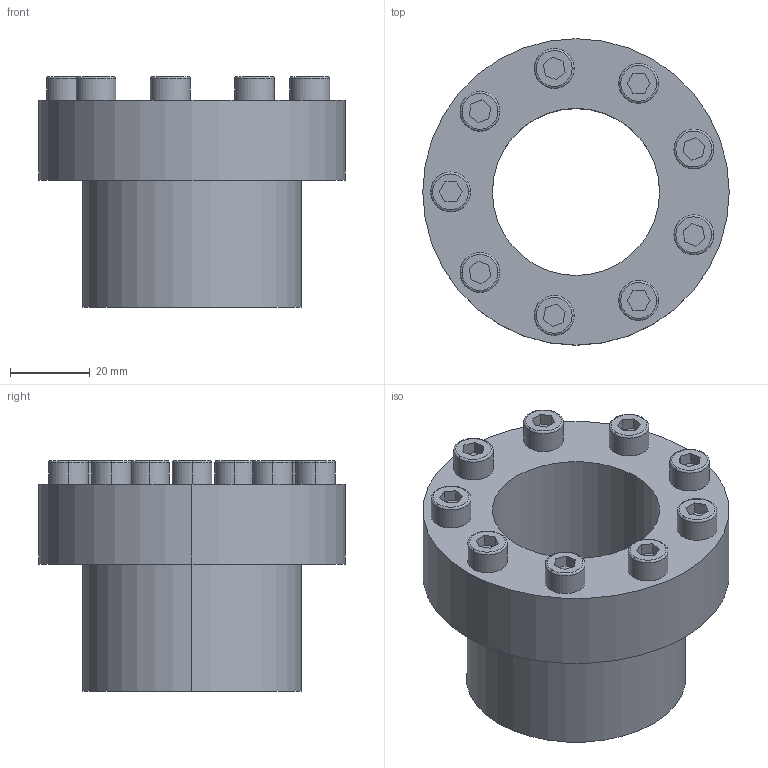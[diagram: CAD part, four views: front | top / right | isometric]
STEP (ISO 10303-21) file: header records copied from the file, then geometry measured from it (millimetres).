
FILE_DESCRIPTION (( 'STEP AP203' ), '1' );
FILE_NAME ('PL-C 42-55.STEP', '2021-10-22T08:40:19', ( '' ), ( '' ), 'SwSTEP 2.0', 'SolidWorks 2018', '' );
FILE_SCHEMA (( 'CONFIG_CONTROL_DESIGN' ));
Length unit declared in the file: millimetre
Products named in the file (1): PL-C 42-55
Bounding box: 77 x 77 x 58 mm (x, y, z)
Volume: 100757.8 mm3; surface area: 25873.3 mm2
Topology: 1 solids, 1 shells, 117 faces, 270 edges, 174 vertices
Faces by surface type: plane 75, cylinder 24, torus 18
Entity records: 3385 total; most frequent: DIRECTION 590, CARTESIAN_POINT 562, ORIENTED_EDGE 540, EDGE_CURVE 270, AXIS2_PLACEMENT_3D 202, VECTOR 186, LINE 186, VERTEX_POINT 174
